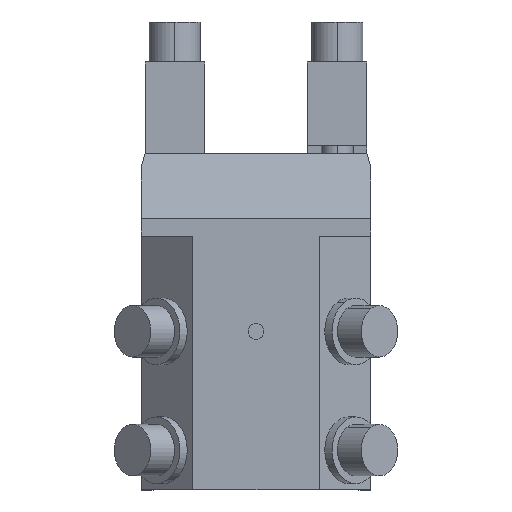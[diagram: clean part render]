
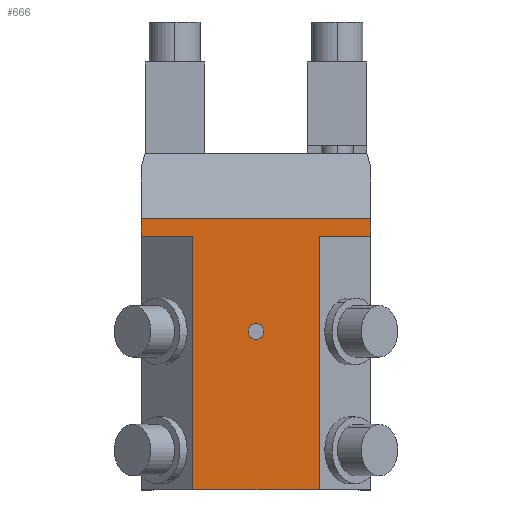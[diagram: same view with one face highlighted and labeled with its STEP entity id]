
A CAD part, top view. The second image highlights one B-rep face of the part: STEP entity #666.
In plain terms, the highlighted planar face has unit normal (0, 0, 1).
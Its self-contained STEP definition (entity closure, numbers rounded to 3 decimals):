
#666=ADVANCED_FACE('Pad.3',(#1626,#1627),#1628,.T.);
#1626=FACE_OUTER_BOUND('',#2969,.T.);
#1627=FACE_BOUND('',#2970,.T.);
#1628=PLANE('',#2971);
#2969=EDGE_LOOP('',(#4676,#4677,#4678,#4679,#4680,#4681,#4682,#4683));
#2970=EDGE_LOOP('',(#4684,#4685,#4686,#4687));
#2971=AXIS2_PLACEMENT_3D('',#4688,#4689,#4690);
#4676=ORIENTED_EDGE('',*,*,#8110,.F.);
#4677=ORIENTED_EDGE('',*,*,#8092,.F.);
#4678=ORIENTED_EDGE('',*,*,#8111,.T.);
#4679=ORIENTED_EDGE('',*,*,#8112,.T.);
#4680=ORIENTED_EDGE('',*,*,#8113,.F.);
#4681=ORIENTED_EDGE('',*,*,#8114,.T.);
#4682=ORIENTED_EDGE('',*,*,#8036,.F.);
#4683=ORIENTED_EDGE('',*,*,#8107,.F.);
#4684=ORIENTED_EDGE('',*,*,#7892,.F.);
#4685=ORIENTED_EDGE('',*,*,#7895,.F.);
#4686=ORIENTED_EDGE('',*,*,#8115,.F.);
#4687=ORIENTED_EDGE('',*,*,#8116,.F.);
#4688=CARTESIAN_POINT('',(0.0,-21.0,35.0));
#4689=DIRECTION('',(0.0,-0.0,1.0));
#4690=DIRECTION('',(0.0,1.0,0.0));
#7892=EDGE_CURVE('',#9457,#9453,#9459,.T.);
#7895=EDGE_CURVE('',#9461,#9457,#9464,.T.);
#8036=EDGE_CURVE('',#9691,#9693,#9694,.F.);
#8092=EDGE_CURVE('',#9776,#9778,#9779,.F.);
#8107=EDGE_CURVE('',#9801,#9691,#9802,.T.);
#8110=EDGE_CURVE('',#9778,#9801,#9805,.T.);
#8111=EDGE_CURVE('',#9776,#9806,#9807,.T.);
#8112=EDGE_CURVE('',#9806,#9808,#9809,.F.);
#8113=EDGE_CURVE('',#9810,#9808,#9811,.T.);
#8114=EDGE_CURVE('',#9810,#9693,#9812,.T.);
#8115=EDGE_CURVE('',#9813,#9461,#9814,.T.);
#8116=EDGE_CURVE('',#9453,#9813,#9815,.T.);
#9453=VERTEX_POINT('',#12332);
#9457=VERTEX_POINT('',#12337);
#9459=CIRCLE('',#12340,2.0);
#9461=VERTEX_POINT('',#12342);
#9464=CIRCLE('',#12346,2.0);
#9691=VERTEX_POINT('',#13236);
#9693=VERTEX_POINT('',#13239);
#9694=LINE('',#13240,#13241);
#9776=VERTEX_POINT('',#13618);
#9778=VERTEX_POINT('',#13621);
#9779=LINE('',#13622,#13623);
#9801=VERTEX_POINT('',#13652);
#9802=LINE('',#13653,#13654);
#9805=LINE('',#13658,#13659);
#9806=VERTEX_POINT('',#13660);
#9807=LINE('',#13661,#13662);
#9808=VERTEX_POINT('',#13663);
#9809=LINE('',#13664,#13665);
#9810=VERTEX_POINT('',#13666);
#9811=LINE('',#13667,#13668);
#9812=LINE('',#13669,#13670);
#9813=VERTEX_POINT('',#13671);
#9814=CIRCLE('',#13672,2.0);
#9815=CIRCLE('',#13673,2.0);
#12332=CARTESIAN_POINT('',(2.0,-45.0,35.0));
#12337=CARTESIAN_POINT('',(-1.755,-45.959,35.0));
#12340=AXIS2_PLACEMENT_3D('',#16668,#16669,#16670);
#12342=CARTESIAN_POINT('',(-2.0,-45.0,35.0));
#12346=AXIS2_PLACEMENT_3D('',#16672,#16673,#16674);
#13236=CARTESIAN_POINT('',(16.0,-85.0,35.));
#13239=CARTESIAN_POINT('',(-16.0,-85.0,35.));
#13240=CARTESIAN_POINT('',(0.,-85.0,35.));
#13241=VECTOR('',#16810,1.0);
#13618=CARTESIAN_POINT('',(29.0,-16.485,35.0));
#13621=CARTESIAN_POINT('',(29.0,-21.0,35.0));
#13622=CARTESIAN_POINT('',(29.0,-18.743,35.0));
#13623=VECTOR('',#16879,1.0);
#13652=CARTESIAN_POINT('',(16.0,-21.0,35.0));
#13653=CARTESIAN_POINT('',(16.0,-53.0,35.));
#13654=VECTOR('',#16902,1.0);
#13658=CARTESIAN_POINT('',(22.5,-21.0,35.0));
#13659=VECTOR('',#16904,1.0);
#13660=CARTESIAN_POINT('',(-29.0,-16.485,35.0));
#13661=CARTESIAN_POINT('',(0.0,-16.485,35.0));
#13662=VECTOR('',#16905,1.0);
#13663=CARTESIAN_POINT('',(-29.0,-21.0,35.0));
#13664=CARTESIAN_POINT('',(-29.0,-18.743,35.0));
#13665=VECTOR('',#16906,1.0);
#13666=CARTESIAN_POINT('',(-16.0,-21.0,35.0));
#13667=CARTESIAN_POINT('',(-22.5,-21.0,35.0));
#13668=VECTOR('',#16907,1.0);
#13669=CARTESIAN_POINT('',(-16.0,-53.0,35.0));
#13670=VECTOR('',#16908,1.0);
#13671=CARTESIAN_POINT('',(1.755,-44.041,35.0));
#13672=AXIS2_PLACEMENT_3D('',#16909,#16910,#16911);
#13673=AXIS2_PLACEMENT_3D('',#16912,#16913,#16914);
#16668=CARTESIAN_POINT('',(0.,-45.0,35.0));
#16669=DIRECTION('',(0.0,-0.0,1.0));
#16670=DIRECTION('',(0.0,1.0,0.0));
#16672=CARTESIAN_POINT('',(0.,-45.0,35.0));
#16673=DIRECTION('',(0.0,-0.0,1.0));
#16674=DIRECTION('',(0.0,1.0,0.0));
#16810=DIRECTION('',(1.0,0.0,0.0));
#16879=DIRECTION('',(0.0,1.0,0.0));
#16902=DIRECTION('',(0.0,-1.0,0.0));
#16904=DIRECTION('',(-1.0,0.0,0.0));
#16905=DIRECTION('',(-1.0,0.0,0.0));
#16906=DIRECTION('',(0.0,1.0,0.0));
#16907=DIRECTION('',(-1.0,0.0,0.0));
#16908=DIRECTION('',(0.0,-1.0,0.0));
#16909=CARTESIAN_POINT('',(0.,-45.0,35.0));
#16910=DIRECTION('',(0.0,-0.0,1.0));
#16911=DIRECTION('',(0.0,1.0,0.0));
#16912=CARTESIAN_POINT('',(0.,-45.0,35.0));
#16913=DIRECTION('',(0.0,-0.0,1.0));
#16914=DIRECTION('',(0.0,1.0,0.0));
